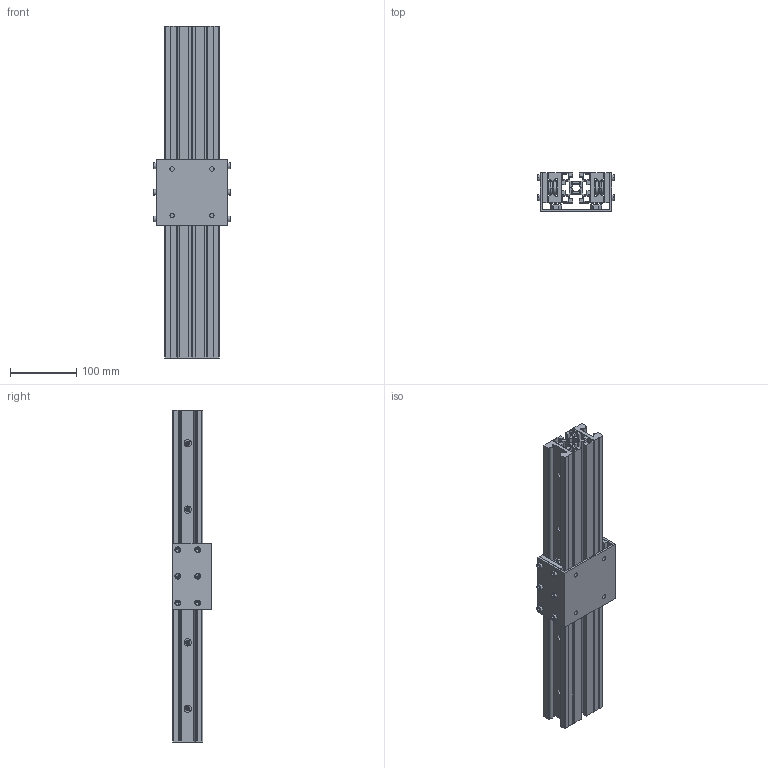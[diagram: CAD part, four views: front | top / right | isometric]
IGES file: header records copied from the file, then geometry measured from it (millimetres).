
Start section: SolidWorks IGES file using analytic representation for surfaces
Global section: file name: C:\Users\tsuch\OneDrive\デスクトップ\LSIM-DB(3D)\参考図面\LSIM45DB.IGS; native system: SolidWorks 2019; preprocessor: SolidWorks 2019; author: tsuch; date: 200728.154726; units: millimetre
Bounding box: 117.2 x 58 x 500 mm (x, y, z)
Volume: 1077213.9 mm3; surface area: 531977 mm2
Topology: 18 solids, 18 shells, 974 faces, 2416 edges, 1548 vertices
Faces by surface type: revolution 578, plane 396
